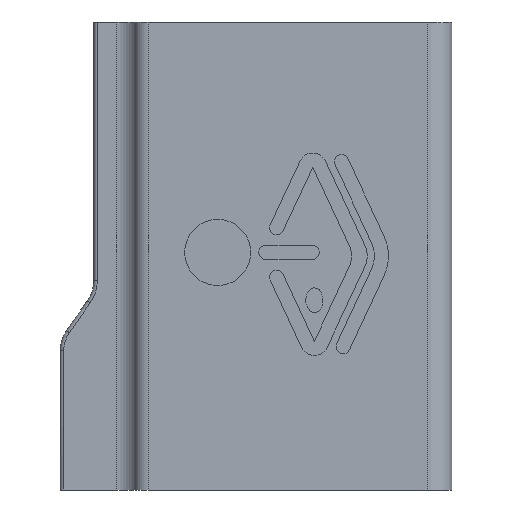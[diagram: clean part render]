
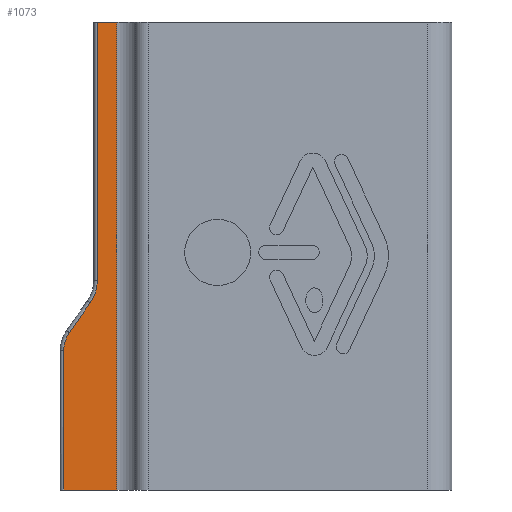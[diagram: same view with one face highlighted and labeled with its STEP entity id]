
A CAD part, front view. The second image highlights one B-rep face of the part: STEP entity #1073.
In plain terms, the highlighted planar face has unit normal (0, -1, 0).
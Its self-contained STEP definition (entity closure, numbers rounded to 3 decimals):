
#60=CIRCLE('',#1169,11.);
#61=CIRCLE('',#1170,9.);
#149=FACE_OUTER_BOUND('',#214,.T.);
#214=EDGE_LOOP('',(#876,#877,#878,#879,#880,#881,#882,#883));
#300=LINE('',#1766,#396);
#301=LINE('',#1770,#397);
#302=LINE('',#1772,#398);
#303=LINE('',#1776,#399);
#304=LINE('',#1780,#400);
#305=LINE('',#1781,#401);
#396=VECTOR('',#1418,10.);
#397=VECTOR('',#1423,10.);
#398=VECTOR('',#1424,10.);
#399=VECTOR('',#1427,10.);
#400=VECTOR('',#1430,10.);
#401=VECTOR('',#1431,10.);
#494=VERTEX_POINT('',#1763);
#495=VERTEX_POINT('',#1765);
#496=VERTEX_POINT('',#1769);
#497=VERTEX_POINT('',#1771);
#498=VERTEX_POINT('',#1773);
#499=VERTEX_POINT('',#1775);
#500=VERTEX_POINT('',#1777);
#501=VERTEX_POINT('',#1779);
#630=EDGE_CURVE('',#494,#495,#300,.T.);
#632=EDGE_CURVE('',#494,#496,#301,.T.);
#633=EDGE_CURVE('',#497,#496,#302,.T.);
#634=EDGE_CURVE('',#498,#497,#60,.T.);
#635=EDGE_CURVE('',#499,#498,#303,.T.);
#636=EDGE_CURVE('',#500,#499,#61,.T.);
#637=EDGE_CURVE('',#501,#500,#304,.T.);
#638=EDGE_CURVE('',#495,#501,#305,.T.);
#876=ORIENTED_EDGE('',*,*,#632,.T.);
#877=ORIENTED_EDGE('',*,*,#633,.F.);
#878=ORIENTED_EDGE('',*,*,#634,.F.);
#879=ORIENTED_EDGE('',*,*,#635,.F.);
#880=ORIENTED_EDGE('',*,*,#636,.F.);
#881=ORIENTED_EDGE('',*,*,#637,.F.);
#882=ORIENTED_EDGE('',*,*,#638,.F.);
#883=ORIENTED_EDGE('',*,*,#630,.F.);
#1026=PLANE('',#1168);
#1073=ADVANCED_FACE('',(#149),#1026,.T.);
#1168=AXIS2_PLACEMENT_3D('',#1768,#1421,#1422);
#1169=AXIS2_PLACEMENT_3D('',#1774,#1425,#1426);
#1170=AXIS2_PLACEMENT_3D('',#1778,#1428,#1429);
#1418=DIRECTION('',(0.,0.,-1.));
#1421=DIRECTION('center_axis',(0.,-1.,0.));
#1422=DIRECTION('ref_axis',(1.,0.,0.));
#1423=DIRECTION('',(-1.,0.,0.));
#1424=DIRECTION('',(0.,0.,1.));
#1425=DIRECTION('center_axis',(0.,-1.,0.));
#1426=DIRECTION('ref_axis',(0.954,0.,-0.301));
#1427=DIRECTION('',(0.574,0.,0.819));
#1428=DIRECTION('center_axis',(0.,1.,0.));
#1429=DIRECTION('ref_axis',(-0.954,0.,0.301));
#1430=DIRECTION('',(0.,0.,1.));
#1431=DIRECTION('',(-1.,0.,0.));
#1763=CARTESIAN_POINT('',(-9.,2.75,131.));
#1765=CARTESIAN_POINT('',(-9.,2.75,-1.));
#1766=CARTESIAN_POINT('',(-9.,2.75,10.));
#1768=CARTESIAN_POINT('Origin',(-25.,2.75,0.));
#1769=CARTESIAN_POINT('',(-14.5,2.75,131.));
#1770=CARTESIAN_POINT('',(5.263,2.75,131.));
#1771=CARTESIAN_POINT('',(-14.5,2.75,58.113));
#1772=CARTESIAN_POINT('',(-14.5,2.75,29.056));
#1773=CARTESIAN_POINT('',(-16.489,2.75,51.803));
#1774=CARTESIAN_POINT('Origin',(-25.5,2.75,58.113));
#1775=CARTESIAN_POINT('',(-22.372,2.75,43.402));
#1776=CARTESIAN_POINT('',(-33.905,2.75,26.931));
#1777=CARTESIAN_POINT('',(-24.,2.75,38.239));
#1778=CARTESIAN_POINT('Origin',(-15.,2.75,38.239));
#1779=CARTESIAN_POINT('',(-24.,2.75,-1.));
#1780=CARTESIAN_POINT('',(-24.,2.75,0.));
#1781=CARTESIAN_POINT('',(2.625,2.75,-1.));
